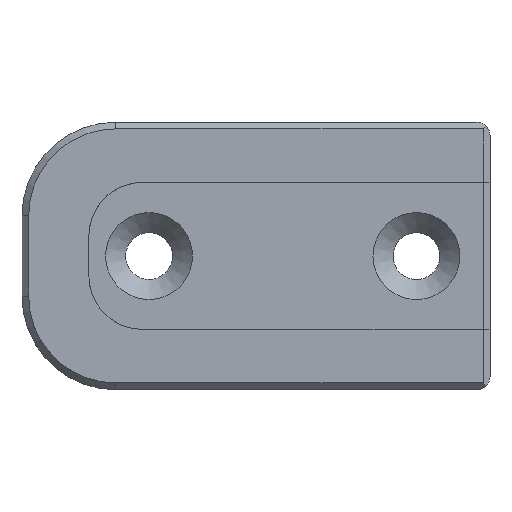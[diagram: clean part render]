
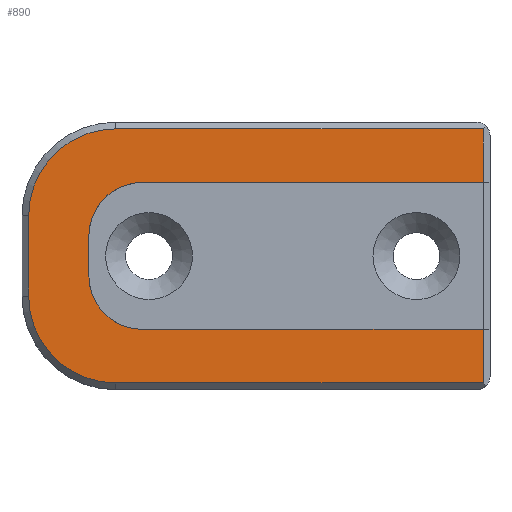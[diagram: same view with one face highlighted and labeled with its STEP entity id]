
A CAD part, top view. The second image highlights one B-rep face of the part: STEP entity #890.
In plain terms, the highlighted planar face has unit normal (0, 0, 1).
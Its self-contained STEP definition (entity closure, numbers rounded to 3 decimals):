
#48=CIRCLE('',#970,4.);
#49=CIRCLE('',#971,4.);
#50=CIRCLE('',#972,6.5);
#51=CIRCLE('',#973,6.5);
#124=ORIENTED_EDGE('',*,*,#369,.T.);
#125=ORIENTED_EDGE('',*,*,#313,.F.);
#126=ORIENTED_EDGE('',*,*,#370,.T.);
#127=ORIENTED_EDGE('',*,*,#350,.T.);
#128=ORIENTED_EDGE('',*,*,#371,.T.);
#129=ORIENTED_EDGE('',*,*,#372,.T.);
#130=ORIENTED_EDGE('',*,*,#373,.T.);
#131=ORIENTED_EDGE('',*,*,#374,.T.);
#132=ORIENTED_EDGE('',*,*,#375,.T.);
#133=ORIENTED_EDGE('',*,*,#376,.T.);
#134=ORIENTED_EDGE('',*,*,#377,.T.);
#135=ORIENTED_EDGE('',*,*,#336,.F.);
#313=EDGE_CURVE('',#439,#437,#521,.T.);
#336=EDGE_CURVE('',#459,#460,#539,.T.);
#350=EDGE_CURVE('',#470,#471,#552,.T.);
#369=EDGE_CURVE('',#459,#437,#48,.T.);
#370=EDGE_CURVE('',#439,#470,#49,.T.);
#371=EDGE_CURVE('',#471,#488,#567,.T.);
#372=EDGE_CURVE('',#488,#489,#568,.T.);
#373=EDGE_CURVE('',#489,#490,#50,.T.);
#374=EDGE_CURVE('',#490,#491,#569,.T.);
#375=EDGE_CURVE('',#491,#492,#51,.T.);
#376=EDGE_CURVE('',#492,#493,#570,.T.);
#377=EDGE_CURVE('',#493,#460,#571,.T.);
#437=VERTEX_POINT('',#1300);
#439=VERTEX_POINT('',#1304);
#459=VERTEX_POINT('',#1351);
#460=VERTEX_POINT('',#1353);
#470=VERTEX_POINT('',#1381);
#471=VERTEX_POINT('',#1382);
#488=VERTEX_POINT('',#1424);
#489=VERTEX_POINT('',#1426);
#490=VERTEX_POINT('',#1428);
#491=VERTEX_POINT('',#1430);
#492=VERTEX_POINT('',#1432);
#493=VERTEX_POINT('',#1434);
#521=LINE('',#1305,#619);
#539=LINE('',#1352,#637);
#552=LINE('',#1380,#650);
#567=LINE('',#1423,#665);
#568=LINE('',#1425,#666);
#569=LINE('',#1429,#667);
#570=LINE('',#1433,#668);
#571=LINE('',#1435,#669);
#619=VECTOR('',#1037,1000.);
#637=VECTOR('',#1073,1000.);
#650=VECTOR('',#1096,1000.);
#665=VECTOR('',#1131,1000.);
#666=VECTOR('',#1132,1000.);
#667=VECTOR('',#1135,1000.);
#668=VECTOR('',#1138,1000.);
#669=VECTOR('',#1139,1000.);
#730=EDGE_LOOP('',(#124,#125,#126,#127,#128,#129,#130,#131,#132,#133,#134,
#135));
#792=FACE_BOUND('',#730,.T.);
#850=PLANE('',#969);
#890=ADVANCED_FACE('',(#792),#850,.T.);
#969=AXIS2_PLACEMENT_3D('',#1420,#1125,#1126);
#970=AXIS2_PLACEMENT_3D('',#1421,#1127,#1128);
#971=AXIS2_PLACEMENT_3D('',#1422,#1129,#1130);
#972=AXIS2_PLACEMENT_3D('',#1427,#1133,#1134);
#973=AXIS2_PLACEMENT_3D('',#1431,#1136,#1137);
#1037=DIRECTION('',(0.,-1.,0.));
#1073=DIRECTION('',(1.,0.,0.));
#1096=DIRECTION('',(1.,0.,0.));
#1125=DIRECTION('',(0.,0.,1.));
#1126=DIRECTION('',(0.,-1.,0.));
#1127=DIRECTION('',(0.,0.,-1.));
#1128=DIRECTION('',(0.,1.,0.));
#1129=DIRECTION('',(0.,0.,-1.));
#1130=DIRECTION('',(0.,-1.,0.));
#1131=DIRECTION('',(0.,1.,0.));
#1132=DIRECTION('',(-1.,0.,0.));
#1133=DIRECTION('',(0.,0.,1.));
#1134=DIRECTION('',(0.,-1.,0.));
#1135=DIRECTION('',(0.,-1.,0.));
#1136=DIRECTION('',(0.,0.,1.));
#1137=DIRECTION('',(0.,-1.,0.));
#1138=DIRECTION('',(1.,0.,0.));
#1139=DIRECTION('',(0.,1.,0.));
#1300=CARTESIAN_POINT('',(-12.5,-1.5,4.));
#1304=CARTESIAN_POINT('',(-12.5,1.5,4.));
#1305=CARTESIAN_POINT('',(-12.5,5.5,4.));
#1351=CARTESIAN_POINT('',(-8.5,-5.5,4.));
#1352=CARTESIAN_POINT('',(-12.5,-5.5,4.));
#1353=CARTESIAN_POINT('',(17.,-5.5,4.));
#1380=CARTESIAN_POINT('',(-12.5,5.5,4.));
#1381=CARTESIAN_POINT('',(-8.5,5.5,4.));
#1382=CARTESIAN_POINT('',(17.,5.5,4.));
#1420=CARTESIAN_POINT('',(17.5,-10.,4.));
#1421=CARTESIAN_POINT('',(-8.5,-1.5,4.));
#1422=CARTESIAN_POINT('',(-8.5,1.5,4.));
#1423=CARTESIAN_POINT('',(17.,10.,4.));
#1424=CARTESIAN_POINT('',(17.,9.5,4.));
#1425=CARTESIAN_POINT('',(17.5,9.5,4.));
#1426=CARTESIAN_POINT('',(-10.5,9.5,4.));
#1427=CARTESIAN_POINT('',(-10.5,3.,4.));
#1428=CARTESIAN_POINT('',(-17.,3.,4.));
#1429=CARTESIAN_POINT('',(-17.,-10.,4.));
#1430=CARTESIAN_POINT('',(-17.,-3.,4.));
#1431=CARTESIAN_POINT('',(-10.5,-3.,4.));
#1432=CARTESIAN_POINT('',(-10.5,-9.5,4.));
#1433=CARTESIAN_POINT('',(17.5,-9.5,4.));
#1434=CARTESIAN_POINT('',(17.,-9.5,4.));
#1435=CARTESIAN_POINT('',(17.,-5.5,4.));
